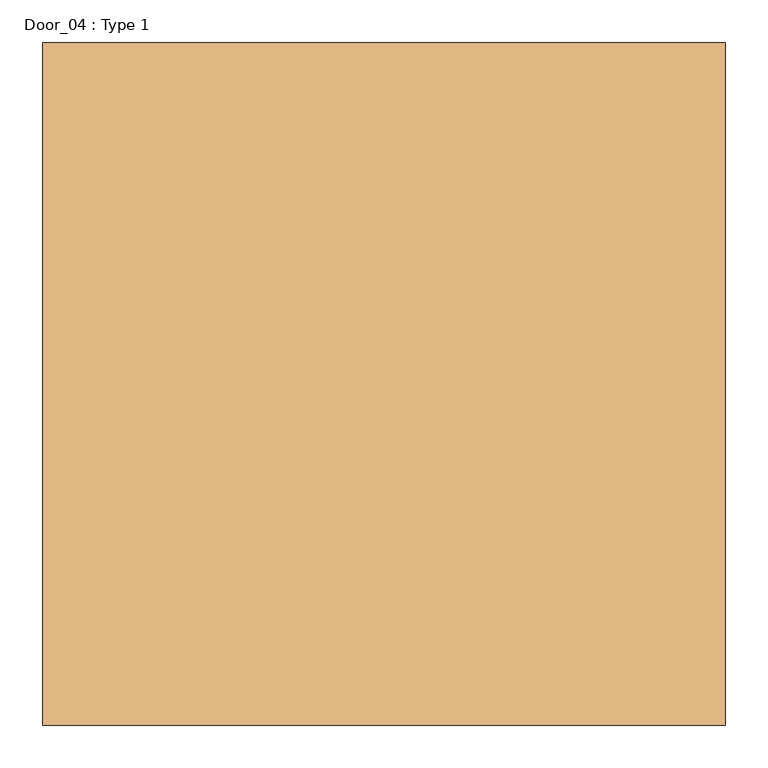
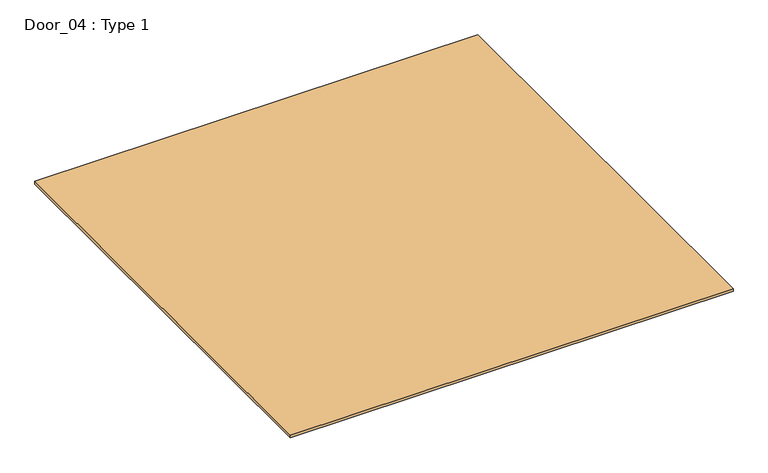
"""IFC4 building model written with IfcOpenShell, lengths in millimetres: door geometry, Door_04 : Type 1."""

from ifc_helpers import new_model, si_unit, origin, origin_with_axes, place, context, project, spatial, polyline, outline, extrude, source, transform, mapped, element, save


def door_04_type_1_ab4ee08b(model_context):
    return source(origin(), model_context, "Body", "SweptSolid", [
        extrude(outline(polyline([(400.0, 400.0), (400.0, -400.0), (-400.0, -400.0), (-400.0, 400.0), (400.0, 400.0)])), origin_with_axes(), (0.0, 0.0, 1.0), 5.0),
    ])


if __name__ == "__main__":
    model = new_model("IFC4")
    model_context = context("Model", 3, world=origin())
    ifc_project = project(units=[si_unit("LENGTHUNIT", "METRE", prefix="MILLI")], contexts=[model_context])
    site = spatial("IfcSite", under=ifc_project)
    building = spatial("IfcBuilding", under=site)
    placement = place(None, origin())
    door_04_type_1_shape = door_04_type_1_ab4ee08b(model_context)
    element("IfcDoor", 1, ObjectType="Door_04 : Type 1", at=placement, inside=building, context=model_context, shape_type="MappedRepresentation", body=[
        mapped(door_04_type_1_shape, transform((0.0, 0.0, 0.0), x_axis=(1.0, 0.0, 0.0), y_axis=(0.0, 1.0, 0.0), z_axis=(0.0, 0.0, 1.0))),
    ])
    save(model, "model.ifc")
